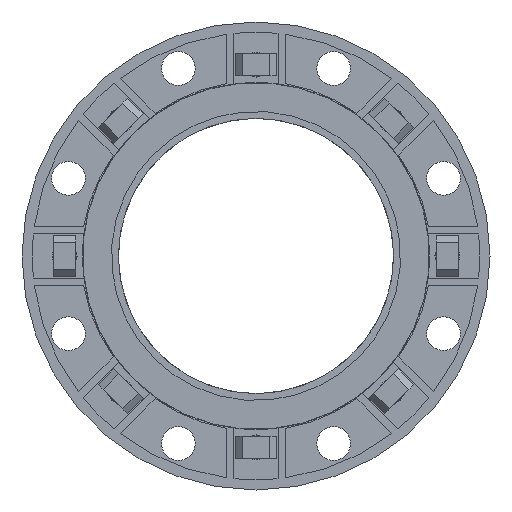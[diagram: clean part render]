
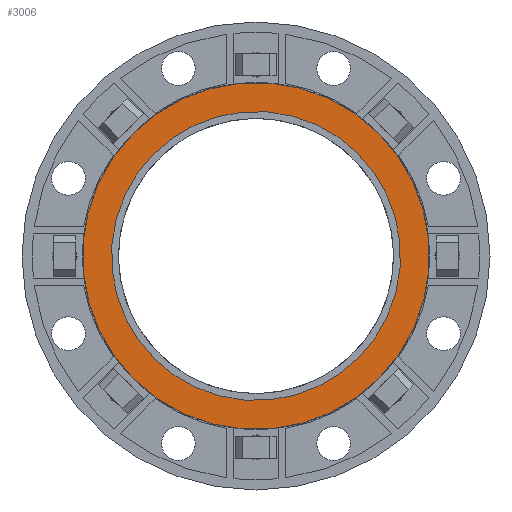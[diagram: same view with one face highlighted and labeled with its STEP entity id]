
A CAD part, front view. The second image highlights one B-rep face of the part: STEP entity #3006.
In plain terms, the highlighted planar face has unit normal (0, -1, 0).
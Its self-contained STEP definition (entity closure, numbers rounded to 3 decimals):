
#872 = DIRECTION ( 'NONE',  ( 0., 1., 0. ) ) ;
#1997 = CARTESIAN_POINT ( 'NONE',  ( -45.033, -3., 94.853 ) ) ;
#2095 = CARTESIAN_POINT ( 'NONE',  ( 0., -3., 0. ) ) ;
#2717 = EDGE_CURVE ( 'Defeatured_0_344+Defeatured_0_505+Defeatured_0_505+Defeatured_0_505', #2952, #7208, #4257, .T. ) ;
#2796 = AXIS2_PLACEMENT_3D ( 'NONE', #14979, #872, #18063 ) ;
#2952 = VERTEX_POINT ( 'NONE', #1997 ) ;
#3006 = ADVANCED_FACE ( 'Defeatured_0_344', ( #17963, #21829 ), #9286, .F. ) ;
#3369 = AXIS2_PLACEMENT_3D ( 'NONE', #2095, #9048, #5984 ) ;
#3681 = AXIS2_PLACEMENT_3D ( 'NONE', #5194, #17167, #19089 ) ;
#4257 = CIRCLE ( 'NONE', #22449, 105. ) ;
#4548 = CARTESIAN_POINT ( 'NONE',  ( 0., -3., 0. ) ) ;
#5194 = CARTESIAN_POINT ( 'NONE',  ( 0., -3., 0. ) ) ;
#5984 = DIRECTION ( 'NONE',  ( -0.429, 0., 0.903 ) ) ;
#6591 = CARTESIAN_POINT ( 'NONE',  ( -54.039, -3., 113.823 ) ) ;
#6844 = EDGE_CURVE ( 'Defeatured_0_345+Defeatured_0_344+Defeatured_0_344+Defeatured_0_344', #12643, #17415, #20496, .T. ) ;
#7208 = VERTEX_POINT ( 'NONE', #22389 ) ;
#7777 = EDGE_LOOP ( 'NONE', ( #12514, #21215 ) ) ;
#8396 = DIRECTION ( 'NONE',  ( 0., 1., 0. ) ) ;
#9048 = DIRECTION ( 'NONE',  ( 0., 1., 0. ) ) ;
#9286 = PLANE ( 'NONE',  #2796 ) ;
#9774 = DIRECTION ( 'NONE',  ( -0.429, 0., 0.903 ) ) ;
#10423 = DIRECTION ( 'NONE',  ( -0.429, 0., 0.903 ) ) ;
#10786 = EDGE_LOOP ( 'NONE', ( #19517, #11671 ) ) ;
#10807 = CARTESIAN_POINT ( 'NONE',  ( 54.039, -3., -113.823 ) ) ;
#11671 = ORIENTED_EDGE ( 'NONE', *, *, #20773, .F. ) ;
#12514 = ORIENTED_EDGE ( 'NONE', *, *, #15491, .T. ) ;
#12643 = VERTEX_POINT ( 'NONE', #10807 ) ;
#12793 = CIRCLE ( 'NONE', #3681, 126. ) ;
#14177 = CIRCLE ( 'NONE', #16374, 105. ) ;
#14900 = DIRECTION ( 'NONE',  ( 0., 1., 0. ) ) ;
#14979 = CARTESIAN_POINT ( 'NONE',  ( 0., -3., 0. ) ) ;
#15491 = EDGE_CURVE ( 'Defeatured_0_344+Defeatured_0_505+Defeatured_0_505+Defeatured_0_505', #7208, #2952, #14177, .T. ) ;
#16374 = AXIS2_PLACEMENT_3D ( 'NONE', #4548, #14900, #9774 ) ;
#17167 = DIRECTION ( 'NONE',  ( 0., 1., 0. ) ) ;
#17415 = VERTEX_POINT ( 'NONE', #6591 ) ;
#17963 = FACE_BOUND ( 'NONE', #7777, .T. ) ;
#18063 = DIRECTION ( 'NONE',  ( -0.429, 0., 0.903 ) ) ;
#19089 = DIRECTION ( 'NONE',  ( -0.429, 0., 0.903 ) ) ;
#19517 = ORIENTED_EDGE ( 'NONE', *, *, #6844, .F. ) ;
#20496 = CIRCLE ( 'NONE', #3369, 126. ) ;
#20773 = EDGE_CURVE ( 'Defeatured_0_345+Defeatured_0_344+Defeatured_0_344+Defeatured_0_344', #17415, #12643, #12793, .T. ) ;
#21215 = ORIENTED_EDGE ( 'NONE', *, *, #2717, .T. ) ;
#21829 = FACE_OUTER_BOUND ( 'NONE', #10786, .T. ) ;
#22079 = CARTESIAN_POINT ( 'NONE',  ( 0., -3., 0. ) ) ;
#22389 = CARTESIAN_POINT ( 'NONE',  ( 45.033, -3., -94.853 ) ) ;
#22449 = AXIS2_PLACEMENT_3D ( 'NONE', #22079, #8396, #10423 ) ;
